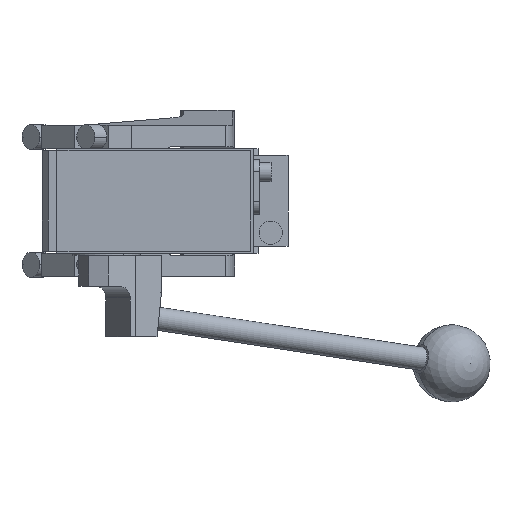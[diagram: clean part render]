
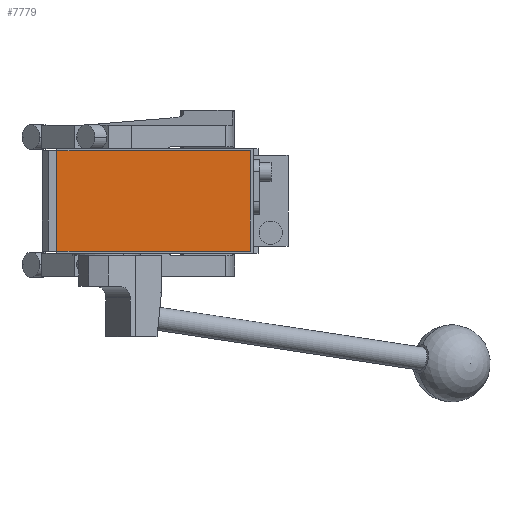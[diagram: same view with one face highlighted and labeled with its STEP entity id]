
A CAD part, front view. The second image highlights one B-rep face of the part: STEP entity #7779.
In plain terms, the highlighted planar face has unit normal (0, -1, 0).
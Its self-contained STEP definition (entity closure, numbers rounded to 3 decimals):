
#434 = AXIS2_PLACEMENT_3D ( 'NONE', #8991, #6632, #13489 ) ;
#673 = DIRECTION ( 'NONE',  ( 0., 0., -1. ) ) ;
#757 = LINE ( 'NONE', #14753, #6171 ) ;
#790 = VERTEX_POINT ( 'NONE', #12516 ) ;
#839 = CARTESIAN_POINT ( 'NONE',  ( -19., -286.5, 26. ) ) ;
#1194 = CARTESIAN_POINT ( 'NONE',  ( 81., -286.5, -26. ) ) ;
#1338 = DIRECTION ( 'NONE',  ( 1., 0., 0. ) ) ;
#1387 = CARTESIAN_POINT ( 'NONE',  ( -19., -286.5, 26. ) ) ;
#1743 = LINE ( 'NONE', #4204, #8121 ) ;
#1789 = FACE_OUTER_BOUND ( 'NONE', #7518, .T. ) ;
#4204 = CARTESIAN_POINT ( 'NONE',  ( 81., -286.5, 26. ) ) ;
#4630 = ORIENTED_EDGE ( 'NONE', *, *, #15123, .T. ) ;
#4880 = EDGE_CURVE ( 'NONE', #790, #13200, #9032, .T. ) ;
#5338 = EDGE_CURVE ( 'NONE', #9021, #9045, #11954, .T. ) ;
#5527 = DIRECTION ( 'NONE',  ( -1., 0., 0. ) ) ;
#6171 = VECTOR ( 'NONE', #673, 1000. ) ;
#6279 = VECTOR ( 'NONE', #1338, 1000. ) ;
#6632 = DIRECTION ( 'NONE',  ( 0., -1., 0. ) ) ;
#6783 = ORIENTED_EDGE ( 'NONE', *, *, #9794, .T. ) ;
#7518 = EDGE_LOOP ( 'NONE', ( #4630, #11669, #6783, #13941 ) ) ;
#7779 = ADVANCED_FACE ( 'NONE', ( #1789 ), #9062, .T. ) ;
#8121 = VECTOR ( 'NONE', #9590, 1000. ) ;
#8991 = CARTESIAN_POINT ( 'NONE',  ( 0., -286.5, 0. ) ) ;
#9021 = VERTEX_POINT ( 'NONE', #10680 ) ;
#9032 = LINE ( 'NONE', #839, #14716 ) ;
#9045 = VERTEX_POINT ( 'NONE', #1194 ) ;
#9062 = PLANE ( 'NONE',  #434 ) ;
#9590 = DIRECTION ( 'NONE',  ( 0., 0., 1. ) ) ;
#9794 = EDGE_CURVE ( 'NONE', #9045, #790, #1743, .T. ) ;
#10680 = CARTESIAN_POINT ( 'NONE',  ( -19., -286.5, -26. ) ) ;
#11669 = ORIENTED_EDGE ( 'NONE', *, *, #5338, .T. ) ;
#11954 = LINE ( 'NONE', #13969, #6279 ) ;
#12516 = CARTESIAN_POINT ( 'NONE',  ( 81., -286.5, 26. ) ) ;
#13200 = VERTEX_POINT ( 'NONE', #1387 ) ;
#13489 = DIRECTION ( 'NONE',  ( 0., 0., -1. ) ) ;
#13941 = ORIENTED_EDGE ( 'NONE', *, *, #4880, .T. ) ;
#13969 = CARTESIAN_POINT ( 'NONE',  ( -19., -286.5, -26. ) ) ;
#14716 = VECTOR ( 'NONE', #5527, 1000. ) ;
#14753 = CARTESIAN_POINT ( 'NONE',  ( -19., -286.5, 26. ) ) ;
#15123 = EDGE_CURVE ( 'NONE', #13200, #9021, #757, .T. ) ;
